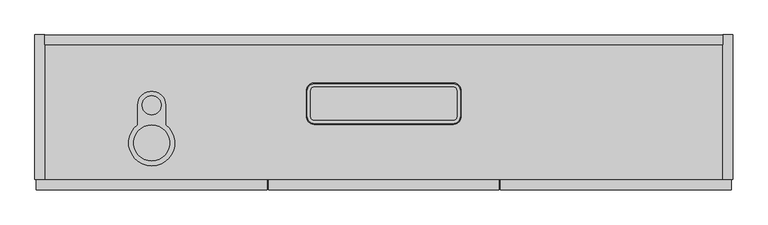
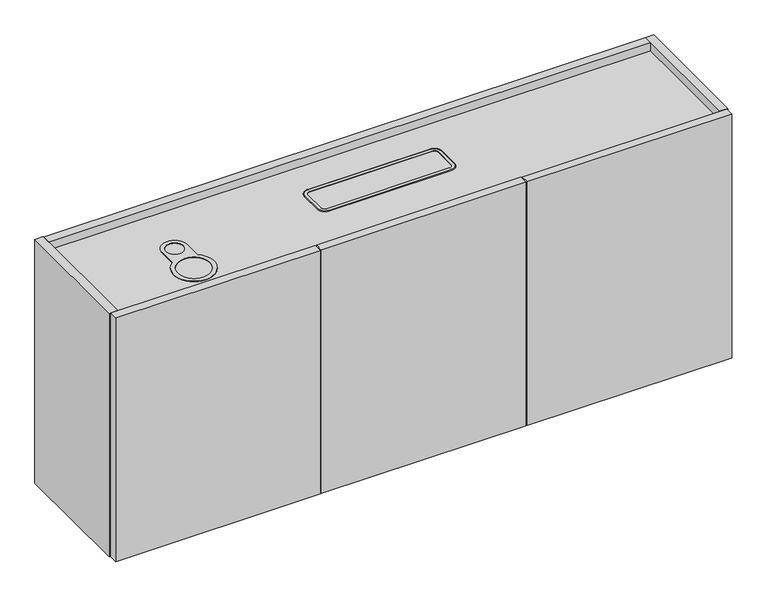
"""IFC4 building model written with IfcOpenShell, lengths in millimetres: furniture geometry, Geiger_GeigerOneCasegoods_UtilityCabinetForUseWithCredenzaDeskAccepts1Leg : Vertical Veneer 54Wx 12Dx 22.5H."""

from ifc_helpers import new_model, si_unit, point, frame, origin, place, context, project, spatial, polyline, circle_curve, ellipse_curve, trimmed, outline, extrude, faceted_brep, source, transform, mapped, element, save
from ifc_brep_helpers import plane_surface, cylinder_surface, revolved_surface, advanced_brep


def furniture_34fd393c(model_context):
    return source(origin(), model_context, "Body", "SolidModel", [
        faceted_brep([(1352.6, -19.5, 584.2), (1352.6, -19.5, 29.0), (1352.6, -0.5, 29.0), (1352.6, -0.5, 584.2), (1352.6, -284.3, 156.0), (1352.6, -284.3, 29.0), (1352.6, -265.3, 29.0), (1352.6, -265.3, 156.0), (19.0, -19.5, 584.2), (19.0, -0.5, 584.2), (19.0, -0.5, 29.0), (19.0, -19.5, 29.0), (19.0, -284.3, 156.0), (19.0, -265.3, 156.0), (19.0, -265.3, 29.0), (19.0, -284.3, 29.0), (448.0, -19.5, 29.0), (448.0, -19.5, 546.2), (467.0, -19.5, 546.2), (467.0, -19.5, 29.0), (448.0, -265.3, 29.0), (448.0, -283.875, 29.0), (467.0, -283.875, 29.0), (467.0, -265.3, 29.0), (467.0, -265.3, 156.0), (448.0, -265.3, 156.0), (467.0, -283.875, 156.0), (448.0, -283.875, 156.0), (448.0, -283.875, 546.2), (448.0, -19.5, 12.7), (448.0, -283.875, 12.7), (467.0, -283.875, 12.7), (467.0, -19.5, 12.7), (467.0, -283.875, 546.2)], [[[0, 1, 2, 3]], [[4, 5, 6, 7]], [[8, 9, 10, 11]], [[12, 13, 14, 15]], [[1, 0, 8, 11, 16, 17, 18, 19]], [[2, 1, 19, 16, 11, 10]], [[3, 2, 10, 9]], [[0, 3, 9, 8]], [[5, 4, 12, 15]], [[6, 5, 15, 14, 20, 21, 22, 23]], [[7, 6, 23, 24]], [[14, 13, 25, 20]], [[4, 7, 24, 26, 27, 25, 13, 12]], [[28, 17, 16, 29, 30, 21, 20, 25, 27]], [[31, 32, 19, 18, 33, 26, 24, 23, 22]], [[30, 31, 22, 21]], [[33, 28, 27, 26]], [[17, 28, 33, 18]], [[32, 29, 16, 19]], [[30, 29, 32, 31]]]),
        extrude(outline(polyline([(1352.6, -19.5), (1352.6, -284.8), (19.0, -284.8), (19.0, -19.5), (1352.6, -19.5)])), frame((0.0, 0.0, 546.2), z_axis=(0.0, 0.0, 1.0), x_axis=(1.0, 0.0, 0.0)), (0.0, 0.0, 1.0), 19.0),
        extrude(outline(polyline([(456.2, -304.8), (3.0, -304.8), (3.0, -285.8), (456.2, -285.8), (456.2, -304.8)])), frame((0.0, 0.0, 12.7), z_axis=(0.0, 0.0, 1.0), x_axis=(1.0, 0.0, 0.0)), (0.0, 0.0, 1.0), 571.5),
        extrude(outline(polyline([(1368.6, -304.8), (915.4, -304.8), (915.4, -285.8), (1368.6, -285.8), (1368.6, -304.8)])), frame((0.0, 0.0, 12.7), z_axis=(0.0, 0.0, 1.0), x_axis=(1.0, 0.0, 0.0)), (0.0, 0.0, 1.0), 571.5),
        extrude(outline(polyline([(912.4, -304.8), (459.2, -304.8), (459.2, -285.8), (912.4, -285.8), (912.4, -304.8)])), frame((0.0, 0.0, 12.7), z_axis=(0.0, 0.0, 1.0), x_axis=(1.0, 0.0, 0.0)), (0.0, 0.0, 1.0), 571.5),
        extrude(outline(polyline([(19.0, -284.8), (0.0, -284.8), (0.0, 0.0), (19.0, 0.0), (19.0, -284.8)])), frame((0.0, 0.0, 12.7), z_axis=(0.0, 0.0, 1.0), x_axis=(1.0, 0.0, 0.0)), (0.0, 0.0, 1.0), 571.5),
        extrude(outline(polyline([(1371.6, -284.8), (1352.6, -284.8), (1352.6, 0.0), (1371.6, 0.0), (1371.6, -284.8)])), frame((0.0, 0.0, 12.7), z_axis=(0.0, 0.0, 1.0), x_axis=(1.0, 0.0, 0.0)), (0.0, 0.0, 1.0), 571.5),
        advanced_brep(
        [(534.5203563, -110.825, 566.7), (549.7, -95.6453563, 566.7), (549.7, -94.4172964, 565.2), (533.2922964, -110.825, 565.2), (533.2922964, -160.025, 565.2), (534.5203563, -160.025, 566.7), (549.7, -176.4327036, 565.2), (549.7, -175.2046437, 566.7), (821.9, -176.4327036, 565.2), (821.9, -175.2046437, 566.7), (838.3077036, -160.025, 565.2), (837.0796437, -160.025, 566.7), (838.3077036, -110.825, 565.2), (837.0796437, -110.825, 566.7), (821.9, -94.4172964, 565.2), (821.9, -95.6453563, 566.7), (549.7, -102.925, 566.7), (821.9, -102.925, 566.7), (829.8, -110.825, 566.7), (829.8, -160.025, 566.7), (821.9, -167.925, 566.7), (549.7, -167.925, 566.7), (541.8, -160.025, 566.7), (541.8, -110.825, 566.7), (541.8, -110.825, 566.001635), (549.7, -102.925, 566.001635), (541.8, -160.025, 566.001635), (549.7, -167.925, 566.001635), (821.9, -167.925, 566.001635), (829.8, -160.025, 566.001635), (829.8, -110.825, 566.001635), (821.9, -102.925, 566.001635)],
        [
            (0, 1, circle_curve(frame((549.7, -110.825, 566.7), z_axis=(0.0, 0.0, -1.0), x_axis=(0.0, 1.0, 0.0)), 15.1796437)),
            (1, 2, circle_curve(frame((549.7, -95.6453563, 565.4472896), z_axis=(-1.0, 0.0, 0.0), x_axis=(0.0, -1.0, 0.0)), 1.2527104)),
            (2, 3, circle_curve(frame((549.7, -110.825, 565.2), z_axis=(0.0, 0.0, 1.0), x_axis=(0.0, 1.0, 0.0)), 16.4077036)),
            (3, 0, circle_curve(frame((534.5203563, -110.825, 565.4472896), z_axis=(0.0, 1.0, 0.0), x_axis=(1.0, 0.0, 0.0)), 1.2527104)),
            (3, 4),
            (4, 5, circle_curve(frame((534.5203563, -160.025, 565.4472896), z_axis=(0.0, 1.0, 0.0), x_axis=(1.0, 0.0, 0.0)), 1.2527104)),
            (5, 0),
            (4, 6, circle_curve(frame((549.7, -160.025, 565.2), z_axis=(0.0, 0.0, 1.0), x_axis=(-1.0, 0.0, 0.0)), 16.4077036)),
            (6, 7, circle_curve(frame((549.7, -175.2046437, 565.4472896), z_axis=(-1.0, 0.0, 0.0), x_axis=(0.0, 1.0, 0.0)), 1.2527104)),
            (7, 5, circle_curve(frame((549.7, -160.025, 566.7), z_axis=(0.0, 0.0, -1.0), x_axis=(-1.0, 0.0, 0.0)), 15.1796437)),
            (6, 8),
            (8, 9, circle_curve(frame((821.9, -175.2046437, 565.4472896), z_axis=(-1.0, 0.0, 0.0), x_axis=(0.0, 1.0, 0.0)), 1.2527104)),
            (9, 7),
            (8, 10, circle_curve(frame((821.9, -160.025, 565.2), z_axis=(0.0, 0.0, 1.0), x_axis=(0.0, -1.0, 0.0)), 16.4077036)),
            (10, 11, circle_curve(frame((837.0796437, -160.025, 565.4472896), z_axis=(0.0, -1.0, 0.0), x_axis=(-1.0, 0.0, 0.0)), 1.2527104)),
            (11, 9, circle_curve(frame((821.9, -160.025, 566.7), z_axis=(0.0, 0.0, -1.0), x_axis=(0.0, -1.0, 0.0)), 15.1796437)),
            (10, 12),
            (12, 13, circle_curve(frame((837.0796437, -110.825, 565.4472896), z_axis=(0.0, -1.0, 0.0), x_axis=(-1.0, 0.0, 0.0)), 1.2527104)),
            (13, 11),
            (12, 14, circle_curve(frame((821.9, -110.825, 565.2), z_axis=(0.0, 0.0, 1.0), x_axis=(1.0, 0.0, 0.0)), 16.4077036)),
            (14, 15, circle_curve(frame((821.9, -95.6453563, 565.4472896), z_axis=(1.0, 0.0, 0.0), x_axis=(0.0, -1.0, 0.0)), 1.2527104)),
            (15, 13, circle_curve(frame((821.9, -110.825, 566.7), z_axis=(0.0, 0.0, -1.0), x_axis=(1.0, 0.0, 0.0)), 15.1796437)),
            (1, 15),
            (14, 2),
            (16, 17),
            (17, 18, circle_curve(frame((821.9, -110.825, 566.7), z_axis=(0.0, 0.0, -1.0), x_axis=(1.0, 0.0, 0.0)), 7.9)),
            (18, 19),
            (19, 20, circle_curve(frame((821.9, -160.025, 566.7), z_axis=(0.0, 0.0, -1.0), x_axis=(0.0, -1.0, 0.0)), 7.9)),
            (20, 21),
            (21, 22, circle_curve(frame((549.7, -160.025, 566.7), z_axis=(0.0, 0.0, -1.0), x_axis=(-1.0, 0.0, 0.0)), 7.9)),
            (22, 23),
            (23, 16, circle_curve(frame((549.7, -110.825, 566.7), z_axis=(0.0, 0.0, -1.0), x_axis=(0.0, 1.0, 0.0)), 7.9)),
            (23, 24),
            (24, 25, circle_curve(frame((549.7, -110.825, 566.001635), z_axis=(0.0, 0.0, -1.0), x_axis=(0.0, 1.0, 0.0)), 7.9)),
            (25, 16),
            (22, 26),
            (26, 24),
            (21, 27),
            (27, 26, circle_curve(frame((549.7, -160.025, 566.001635), z_axis=(0.0, 0.0, -1.0), x_axis=(-1.0, 0.0, 0.0)), 7.9)),
            (20, 28),
            (28, 27),
            (19, 29),
            (29, 28, circle_curve(frame((821.9, -160.025, 566.001635), z_axis=(0.0, 0.0, -1.0), x_axis=(0.0, -1.0, 0.0)), 7.9)),
            (18, 30),
            (30, 29),
            (17, 31),
            (31, 30, circle_curve(frame((821.9, -110.825, 566.001635), z_axis=(0.0, 0.0, -1.0), x_axis=(1.0, 0.0, 0.0)), 7.9)),
            (25, 31),
        ],
        [
            revolved_surface(trimmed(ellipse_curve(frame((549.7, -95.6453563, 565.4472896), z_axis=(1.0, 0.0, 0.0), x_axis=(0.0, -1.0, 0.0)), 1.2527104, 1.2527104), [point((549.7, -94.4172964, 565.2))], [point((549.7, -95.6453563, 566.7))], True, "CARTESIAN"), (549.7, -110.825, 565.2), (0.0, 0.0, 1.0)),
            cylinder_surface(frame((534.5203563, -110.825, 565.4472896), z_axis=(0.0, 1.0, 0.0), x_axis=(1.0, 0.0, 0.0)), 1.2527104),
            revolved_surface(trimmed(ellipse_curve(frame((534.5203563, -160.025, 565.4472896), z_axis=(0.0, 1.0, 0.0), x_axis=(1.0, 0.0, 0.0)), 1.2527104, 1.2527104), [point((533.2922964, -160.025, 565.2))], [point((534.5203563, -160.025, 566.7))], True, "CARTESIAN"), (549.7, -160.025, 565.2), (0.0, 0.0, 1.0)),
            cylinder_surface(frame((549.7, -175.2046437, 565.4472896), z_axis=(-1.0, 0.0, 0.0), x_axis=(0.0, 1.0, 0.0)), 1.2527104),
            revolved_surface(trimmed(ellipse_curve(frame((821.9, -175.2046437, 565.4472896), z_axis=(-1.0, 0.0, 0.0), x_axis=(0.0, 1.0, 0.0)), 1.2527104, 1.2527104), [point((821.9, -176.4327036, 565.2))], [point((821.9, -175.2046437, 566.7))], True, "CARTESIAN"), (821.9, -160.025, 565.2), (0.0, 0.0, 1.0)),
            cylinder_surface(frame((837.0796437, -160.025, 565.4472896), z_axis=(0.0, -1.0, 0.0), x_axis=(-1.0, 0.0, 0.0)), 1.2527104),
            revolved_surface(trimmed(ellipse_curve(frame((837.0796437, -110.825, 565.4472896), z_axis=(0.0, -1.0, 0.0), x_axis=(-1.0, 0.0, 0.0)), 1.2527104, 1.2527104), [point((838.3077036, -110.825, 565.2))], [point((837.0796437, -110.825, 566.7))], True, "CARTESIAN"), (821.9, -110.825, 565.2), (0.0, 0.0, 1.0)),
            cylinder_surface(frame((821.9, -95.6453563, 565.4472896), z_axis=(1.0, 0.0, 0.0), x_axis=(0.0, -1.0, 0.0)), 1.2527104),
            plane_surface(frame((821.9, -95.6453563, 566.7), z_axis=(0.0, 0.0, 1.0), x_axis=(-1.0, 0.0, 0.0))),
            revolved_surface(polyline([(549.7, -102.925, 566.7), (549.7, -102.925, 566.001635)]), (549.7, -110.825, 565.2), (0.0, 0.0, 1.0)),
            plane_surface(frame((541.8, -110.825, 566.7), z_axis=(1.0, 0.0, 0.0), x_axis=(0.0, -1.0, 0.0))),
            revolved_surface(polyline([(541.8000000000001, -160.025, 566.7), (541.8000000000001, -160.025, 566.001635)]), (549.7, -160.025, 565.2), (0.0, 0.0, 1.0)),
            plane_surface(frame((549.7, -167.925, 566.7), z_axis=(0.0, 1.0, 0.0), x_axis=(1.0, 0.0, 0.0))),
            revolved_surface(polyline([(821.9, -167.925, 566.7), (821.9, -167.925, 566.001635)]), (821.9, -160.025, 565.2), (0.0, 0.0, 1.0)),
            plane_surface(frame((829.8, -160.025, 566.7), z_axis=(-1.0, 0.0, 0.0), x_axis=(0.0, 1.0, 0.0))),
            revolved_surface(polyline([(829.8, -110.825, 566.7), (829.8, -110.825, 566.001635)]), (821.9, -110.825, 565.2), (0.0, 0.0, 1.0)),
            plane_surface(frame((821.9, -102.925, 566.7), z_axis=(0.0, -1.0, 0.0), x_axis=(-1.0, 0.0, 0.0))),
            plane_surface(frame((821.9, -102.925, 565.2), z_axis=(0.0, 0.0, -1.0), x_axis=(-1.0, 0.0, 0.0))),
            plane_surface(frame((549.7, -102.925, 566.001635), z_axis=(0.0, 0.0, 1.0), x_axis=(-1.0, 0.0, 0.0))),
        ],
        [
            (0, [[1, 2, 3, 4]]),
            (1, [[-4, 5, 6, 7]]),
            (2, [[-6, 8, 9, 10]]),
            (3, [[-9, 11, 12, 13]]),
            (4, [[-12, 14, 15, 16]]),
            (5, [[-15, 17, 18, 19]]),
            (6, [[-18, 20, 21, 22]]),
            (7, [[-2, 23, -21, 24]]),
            (8, [[-1, -7, -10, -13, -16, -19, -22, -23], [25, 26, 27, 28, 29, 30, 31, 32]]),
            (9, [[-32, 33, 34, 35]]),
            (10, [[-31, 36, 37, -33]]),
            (11, [[-30, 38, 39, -36]]),
            (12, [[-29, 40, 41, -38]]),
            (13, [[-28, 42, 43, -40]]),
            (14, [[-27, 44, 45, -42]]),
            (15, [[-26, 46, 47, -44]]),
            (16, [[-25, -35, 48, -46]]),
            (17, [[-3, -24, -20, -17, -14, -11, -8, -5]]),
            (18, [[-34, -37, -39, -41, -43, -45, -47, -48]]),
        ],
    ),
        advanced_brep(
        [(257.1, -177.1090661, 565.2), (202.1, -177.1090661, 565.2), (202.1, -138.6393843, 565.2), (257.1, -138.6393843, 565.2), (257.1, -177.1090661, 566.8), (257.1, -138.6393843, 566.8), (202.1, -138.6393843, 566.8), (202.1, -177.1090661, 566.8), (229.6, -157.5707393, 566.8), (229.6, -119.7080294, 566.8), (229.6, -248.2790899, 566.8), (229.6, -177.4196387, 566.8), (229.6, -157.5707393, 566.001635), (229.6, -119.7080294, 566.001635), (229.6, -248.2790899, 566.001635), (229.6, -177.4196387, 566.001635)],
        [
            (0, 1, circle_curve(frame((229.6, -212.8493643, 565.2), z_axis=(0.0, 0.0, -1.0), x_axis=(0.0, 1.0, 0.0)), 45.095664)),
            (1, 2),
            (2, 3, circle_curve(frame((229.6, -138.6393843, 565.2), z_axis=(0.0, 0.0, -1.0), x_axis=(0.0, 1.0, 0.0)), 27.5)),
            (3, 0),
            (4, 5),
            (5, 6, circle_curve(frame((229.6, -138.6393843, 566.8), z_axis=(0.0, 0.0, 1.0), x_axis=(0.0, 1.0, 0.0)), 27.5)),
            (6, 7),
            (7, 4, circle_curve(frame((229.6, -212.8493643, 566.8), z_axis=(0.0, 0.0, 1.0), x_axis=(0.0, 1.0, 0.0)), 45.095664)),
            (8, 9, circle_curve(frame((229.6, -138.6393843, 566.8), z_axis=(0.0, 0.0, -1.0), x_axis=(0.0, 1.0, 0.0)), 18.931355)),
            (9, 8, circle_curve(frame((229.6, -138.6393843, 566.8), z_axis=(0.0, 0.0, -1.0), x_axis=(0.0, 1.0, 0.0)), 18.931355)),
            (10, 11, circle_curve(frame((229.6, -212.8493643, 566.8), z_axis=(0.0, 0.0, -1.0), x_axis=(0.0, 1.0, 0.0)), 35.4297256)),
            (11, 10, circle_curve(frame((229.6, -212.8493643, 566.8), z_axis=(0.0, 0.0, -1.0), x_axis=(0.0, 1.0, 0.0)), 35.4297256)),
            (3, 5),
            (4, 0),
            (2, 6),
            (1, 7),
            (8, 12),
            (12, 13, circle_curve(frame((229.6, -138.6393843, 566.001635), z_axis=(0.0, 0.0, -1.0), x_axis=(0.0, 1.0, 0.0)), 18.931355)),
            (13, 9),
            (13, 12, circle_curve(frame((229.6, -138.6393843, 566.001635), z_axis=(0.0, 0.0, -1.0), x_axis=(0.0, 1.0, 0.0)), 18.931355)),
            (10, 14),
            (14, 15, circle_curve(frame((229.6, -212.8493643, 566.001635), z_axis=(0.0, 0.0, -1.0), x_axis=(0.0, 1.0, 0.0)), 35.4297256)),
            (15, 11),
            (15, 14, circle_curve(frame((229.6, -212.8493643, 566.001635), z_axis=(0.0, 0.0, -1.0), x_axis=(0.0, 1.0, 0.0)), 35.4297256)),
        ],
        [
            plane_surface(frame((229.6, -265.3, 565.2), z_axis=(0.0, 0.0, -1.0), x_axis=(-1.0, 0.0, 0.0))),
            plane_surface(frame((229.6, -265.3, 566.8), z_axis=(0.0, 0.0, 1.0), x_axis=(-1.0, 0.0, 0.0))),
            plane_surface(frame((257.1, -138.6393843, 565.2), z_axis=(1.0, 0.0, 0.0), x_axis=(0.0, 0.0, 1.0))),
            cylinder_surface(frame((229.6, -138.6393843, 565.2), z_axis=(0.0, 0.0, -1.0), x_axis=(0.0, 1.0, 0.0)), 27.5),
            plane_surface(frame((202.1, -177.1090661, 565.2), z_axis=(-1.0, 0.0, 0.0), x_axis=(0.0, 0.0, 1.0))),
            cylinder_surface(frame((229.6, -212.8493643, 565.2), z_axis=(0.0, 0.0, -1.0), x_axis=(0.0, 1.0, 0.0)), 45.095664),
            revolved_surface(polyline([(229.6, -119.70802929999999, 566.8), (229.6, -119.70802929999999, 566.001635)]), (229.6, -138.6393843, 565.2), (0.0, 0.0, 1.0)),
            revolved_surface(polyline([(229.6, -177.4196387, 566.8), (229.6, -177.4196387, 566.001635)]), (229.6, -212.8493643, 565.2), (0.0, 0.0, 1.0)),
            plane_surface(frame((210.668645, -138.6393843, 566.001635), z_axis=(0.0, 0.0, 1.0), x_axis=(0.0, -1.0, 0.0))),
        ],
        [
            (0, [[1, 2, 3, 4]]),
            (1, [[5, 6, 7, 8], [9, 10], [11, 12]]),
            (2, [[-4, 13, -5, 14]]),
            (3, [[-3, 15, -6, -13]]),
            (4, [[-2, 16, -7, -15]]),
            (5, [[-1, -14, -8, -16]]),
            (6, [[-9, 17, 18, 19]]),
            (6, [[-10, -19, 20, -17]]),
            (7, [[-11, 21, 22, 23]]),
            (7, [[-12, -23, 24, -21]]),
            (8, [[-18, -20]]),
            (8, [[-22, -24]]),
        ],
    ),
    ])


if __name__ == "__main__":
    model = new_model("IFC4")
    model_context = context("Model", 3, world=origin())
    ifc_project = project(units=[si_unit("LENGTHUNIT", "METRE", prefix="MILLI")], contexts=[model_context])
    site = spatial("IfcSite", under=ifc_project)
    building = spatial("IfcBuilding", under=site)
    placement = place(None, origin())
    furniture_shape = furniture_34fd393c(model_context)
    element("IfcFurniture", 1, ObjectType="Geiger_GeigerOneCasegoods_UtilityCabinetForUseWithCredenzaDeskAccepts1Leg : Vertical Veneer 54Wx 12Dx 22.5H", at=placement, inside=building, context=model_context, shape_type="MappedRepresentation", body=[
        mapped(furniture_shape, transform((0.0, 0.0, 0.0), x_axis=(1.0, 0.0, 0.0), y_axis=(0.0, 1.0, 0.0), z_axis=(0.0, 0.0, 1.0))),
    ])
    save(model, "model.ifc")
